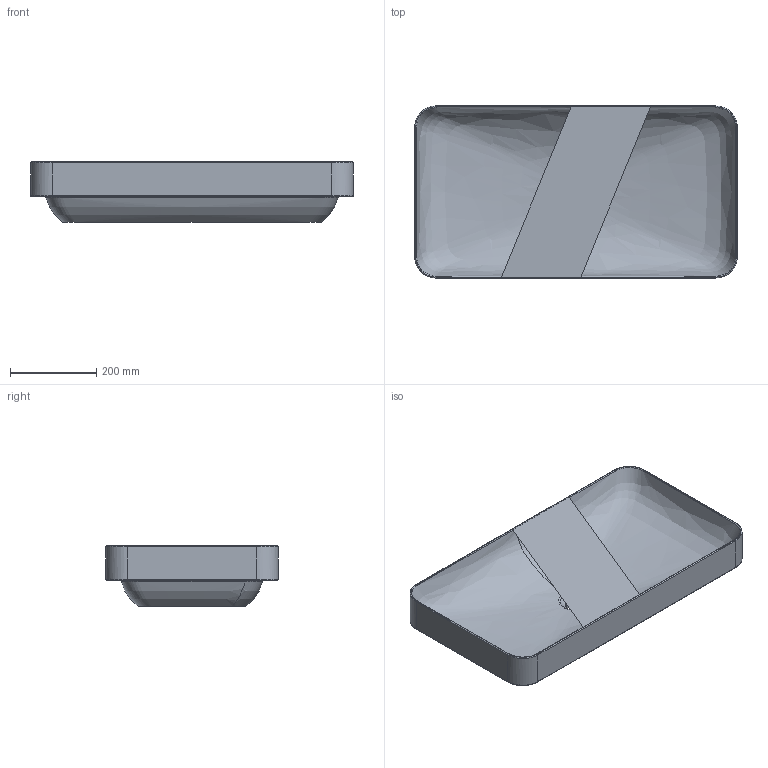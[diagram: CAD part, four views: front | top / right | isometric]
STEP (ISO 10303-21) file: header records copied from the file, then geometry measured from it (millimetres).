
FILE_DESCRIPTION(/* description */ (''),/* implementation_level */ '2;1');
FILE_NAME(/* name */ 'ESO75',/* time_stamp */ '2017-12-11T12:36:42+01:00',/* author */ (''),/* organization */ (''),/* preprocessor_version */ 'ST-DEVELOPER v15',/* originating_system */ '',/* authorisation */ '');
FILE_SCHEMA (('AUTOMOTIVE_DESIGN'));
Length unit declared in the file: millimetre
Products named in the file (1): Document
Bounding box: 750 x 400 x 140 mm (x, y, z)
Volume: 13167950.2 mm3; surface area: 922984.3 mm2
Topology: 1 solids, 1 shells, 55 faces, 154 edges, 98 vertices
Faces by surface type: bspline 48, plane 7
Entity records: 15940 total; most frequent: CARTESIAN_POINT 15016, ORIENTED_EDGE 308, EDGE_CURVE 154, B_SPLINE_CURVE_WITH_KNOTS 112, VERTEX_POINT 102, EDGE_LOOP 58, ADVANCED_FACE 55, FACE_OUTER_BOUND 55
